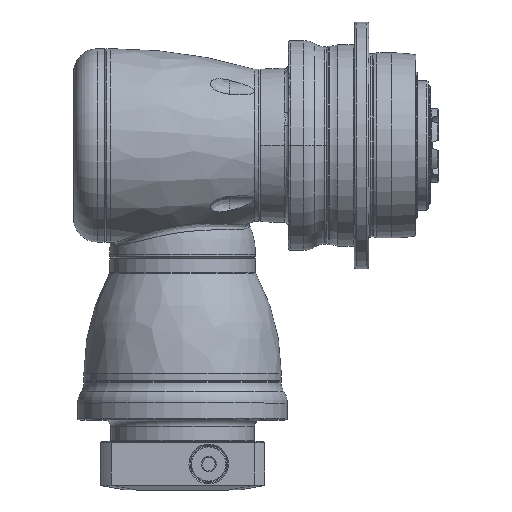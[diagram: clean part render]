
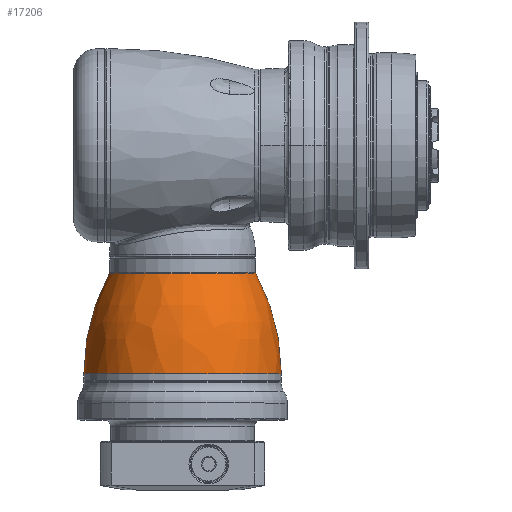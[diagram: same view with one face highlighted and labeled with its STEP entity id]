
A CAD part, top view. The second image highlights one B-rep face of the part: STEP entity #17206.
In plain terms, the highlighted free-form (B-spline) face has degree [3, 3] with [7, 4] control points.
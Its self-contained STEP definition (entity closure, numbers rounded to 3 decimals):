
#16991=CARTESIAN_POINT('',(-3.5,0.,0.));
#16992=DIRECTION('',(1.,0.,0.));
#16993=DIRECTION('',(0.,1.,0.));
#16994=AXIS2_PLACEMENT_3D('',#16991,#16992,#16993);
#16996=CARTESIAN_POINT('',(-52.388,0.,0.));
#16997=DIRECTION('',(-1.,0.,0.));
#16998=DIRECTION('',(0.,-1.,0.));
#16999=AXIS2_PLACEMENT_3D('',#16996,#16997,#16998);
#17001=CARTESIAN_POINT('',(-3.5,-54.29,0.));
#17002=DIRECTION('',(0.,0.,-1.));
#17003=DIRECTION('',(-0.478,0.878,0.));
#17004=AXIS2_PLACEMENT_3D('',#17001,#17002,#17003);
#17006=CARTESIAN_POINT('',(-3.5,54.29,0.));
#17007=DIRECTION('',(0.,0.,1.));
#17008=DIRECTION('',(-0.478,-0.878,0.));
#17009=AXIS2_PLACEMENT_3D('',#17006,#17007,#17008);
#17072=CARTESIAN_POINT('',(-3.5,48.,0.));
#17073=CARTESIAN_POINT('',(-3.5,-48.,0.));
#17074=VERTEX_POINT('',#17072);
#17075=VERTEX_POINT('',#17073);
#17076=CARTESIAN_POINT('',(-52.388,35.561,0.));
#17077=CARTESIAN_POINT('',(-52.388,-35.561,0.));
#17078=VERTEX_POINT('',#17076);
#17079=VERTEX_POINT('',#17077);
#17168=CARTESIAN_POINT('',(-2.481,-47.9,
-3.014));
#17169=CARTESIAN_POINT('',(-20.351,-48.078,
-3.025));
#17170=CARTESIAN_POINT('',(-37.67,-43.68,
-2.748));
#17171=CARTESIAN_POINT('',(-53.281,-35.,
-2.202));
#17172=CARTESIAN_POINT('',(-2.481,-49.755,
26.464));
#17173=CARTESIAN_POINT('',(-20.351,-49.939,
26.562));
#17174=CARTESIAN_POINT('',(-37.67,-45.371,
24.132));
#17175=CARTESIAN_POINT('',(-53.281,-36.355,
19.337));
#17176=CARTESIAN_POINT('',(-2.481,-29.536,
47.995));
#17177=CARTESIAN_POINT('',(-20.351,-29.646,
48.173));
#17178=CARTESIAN_POINT('',(-37.67,-26.934,
43.766));
#17179=CARTESIAN_POINT('',(-53.281,-21.581,
35.069));
#17180=CARTESIAN_POINT('',(-2.481,0.,
47.995));
#17181=CARTESIAN_POINT('',(-20.351,0.,
48.173));
#17182=CARTESIAN_POINT('',(-37.67,0.,
43.766));
#17183=CARTESIAN_POINT('',(-53.281,0.,
35.069));
#17184=CARTESIAN_POINT('',(-2.481,29.536,
47.995));
#17185=CARTESIAN_POINT('',(-20.351,29.646,
48.173));
#17186=CARTESIAN_POINT('',(-37.67,26.934,
43.766));
#17187=CARTESIAN_POINT('',(-53.281,21.581,
35.069));
#17188=CARTESIAN_POINT('',(-2.481,49.755,
26.464));
#17189=CARTESIAN_POINT('',(-20.351,49.939,
26.562));
#17190=CARTESIAN_POINT('',(-37.67,45.371,
24.132));
#17191=CARTESIAN_POINT('',(-53.281,36.355,
19.337));
#17192=CARTESIAN_POINT('',(-2.481,47.9,
-3.014));
#17193=CARTESIAN_POINT('',(-20.351,48.078,
-3.025));
#17194=CARTESIAN_POINT('',(-37.67,43.68,
-2.748));
#17195=CARTESIAN_POINT('',(-53.281,35.,
-2.202));
#17196=(BOUNDED_SURFACE()B_SPLINE_SURFACE(3,3,((#17168,#17169,#17170,#17171),(
#17172,#17173,#17174,#17175),(#17176,#17177,#17178,#17179),(#17180,#17181,
#17182,#17183),(#17184,#17185,#17186,#17187),(#17188,#17189,#17190,#17191),(
#17192,#17193,#17194,#17195)),.UNSPECIFIED.,.F.,.F.,.F.)B_SPLINE_SURFACE_WITH_KNOTS((4,3,4),(4,4),(0.,1.,2.),(0.,1.),.UNSPECIFIED.)GEOMETRIC_REPRESENTATION_ITEM()RATIONAL_B_SPLINE_SURFACE(((1.207,1.181,
1.181,1.207),(0.953,0.932,
0.932,0.953),(0.953,0.932,
0.932,0.953),(1.207,1.181,
1.181,1.207),(0.953,0.932,
0.932,0.953),(0.953,0.932,
0.932,0.953),(1.207,1.181,
1.181,1.207)))REPRESENTATION_ITEM('')SURFACE());
#17198=ORIENTED_EDGE('',*,*,#17197,.T.);
#17200=ORIENTED_EDGE('',*,*,#17199,.T.);
#17201=ORIENTED_EDGE('',*,*,#17162,.T.);
#17203=ORIENTED_EDGE('',*,*,#17202,.F.);
#17204=EDGE_LOOP('',(#17198,#17200,#17201,#17203));
#17205=FACE_OUTER_BOUND('',#17204,.F.);
#17206=ADVANCED_FACE('',(#17205),#17196,.T.);
#16995=CIRCLE('',#16994,48.);
#17000=CIRCLE('',#16999,35.561);
#17005=CIRCLE('',#17004,102.29);
#17010=CIRCLE('',#17009,102.29);
#17162=EDGE_CURVE('',#17074,#17075,#16995,.T.);
#17197=EDGE_CURVE('',#17079,#17078,#17000,.T.);
#17199=EDGE_CURVE('',#17078,#17074,#17005,.T.);
#17202=EDGE_CURVE('',#17079,#17075,#17010,.T.);
